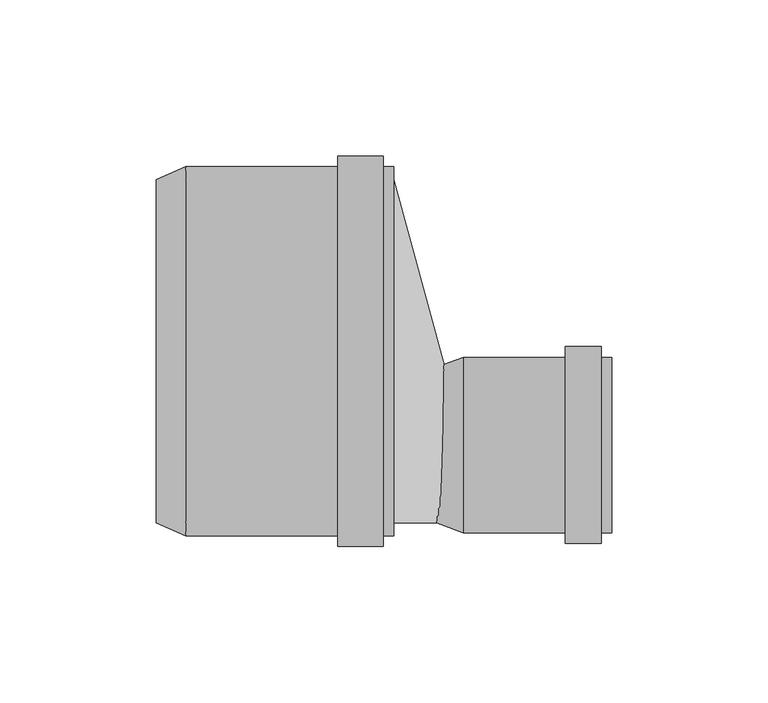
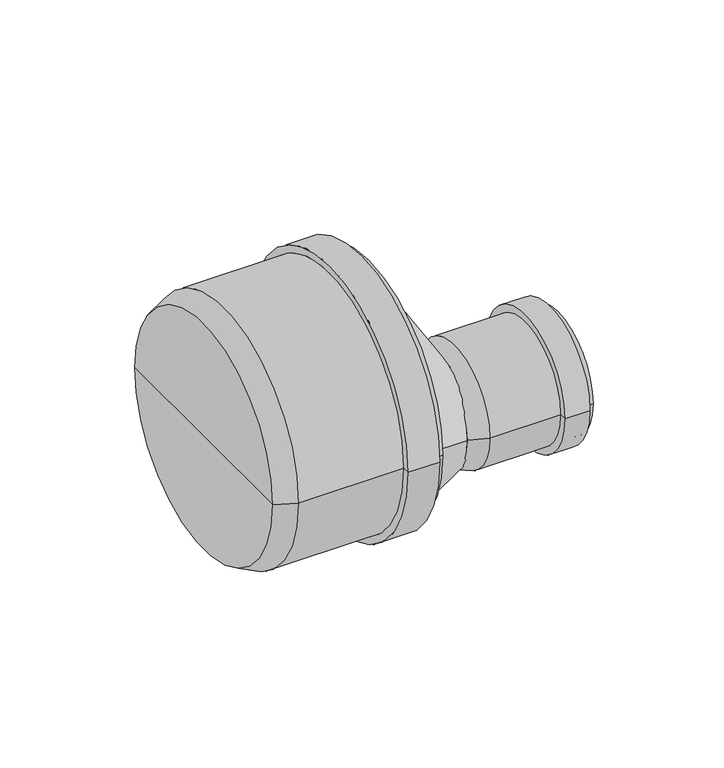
"""IFC4 building model written with IfcOpenShell, lengths in millimetres: pipe fitting geometry, pf_HTR_red-nes-kratka : pf_HTR_red-nes-kratka."""

from ifc_helpers import new_model, si_unit, frame, origin, place, context, project, spatial, polyline, circle_curve, source, transform, mapped, element, save
from ifc_brep_helpers import plane_surface, cylinder_surface, revolved_surface, spline_surface, advanced_brep


def pipe_fitting_8715ee71(model_context):
    return source(origin(), model_context, "Body", "AdvancedBrep", [
        advanced_brep(
        [(-76.0, -55.0, 0.0), (-76.0, 55.0, 0.0), (-66.5, 59.1, 0.0), (-66.5, -59.1, 0.0), (-76.0, 0.0, 0.0), (0.0, -59.1, 0.0), (0.0, 59.1, 0.0), (0.0, 0.0, 0.0), (-3.4, -59.1, 0.0), (-3.4, 59.1, 0.0), (-3.4, -62.5, 0.0), (-3.4, 62.5, 0.0), (-17.9, -62.5, 0.0), (-17.9, 62.5, 0.0), (-17.9, -59.1, 0.0), (-17.9, 59.1, 0.0)],
        [
            (0, 1, circle_curve(frame((-76.0, 0.0, 0.0), z_axis=(1.0, 0.0, 0.0), x_axis=(0.0, 1.0, 0.0)), 55.0)),
            (1, 2),
            (2, 3, circle_curve(frame((-66.5, 0.0, 0.0), z_axis=(-1.0, 0.0, 0.0), x_axis=(0.0, 1.0, 0.0)), 59.1)),
            (3, 0),
            (1, 0, circle_curve(frame((-76.0, 0.0, 0.0), z_axis=(1.0, 0.0, 0.0), x_axis=(0.0, 1.0, 0.0)), 55.0)),
            (3, 2, circle_curve(frame((-66.5, 0.0, 0.0), z_axis=(-1.0, 0.0, 0.0), x_axis=(0.0, 1.0, 0.0)), 59.1)),
            (4, 1),
            (0, 4),
            (5, 6, circle_curve(frame((0.0, 0.0, 0.0), z_axis=(1.0, 0.0, 0.0), x_axis=(0.0, 1.0, 0.0)), 59.1)),
            (6, 7),
            (7, 5),
            (6, 5, circle_curve(frame((0.0, 0.0, 0.0), z_axis=(1.0, 0.0, 0.0), x_axis=(0.0, 1.0, 0.0)), 59.1)),
            (8, 9, circle_curve(frame((-3.4, 0.0, 0.0), z_axis=(1.0, 0.0, 0.0), x_axis=(0.0, 1.0, 0.0)), 59.1)),
            (9, 6),
            (5, 8),
            (9, 8, circle_curve(frame((-3.4, 0.0, 0.0), z_axis=(1.0, 0.0, 0.0), x_axis=(0.0, 1.0, 0.0)), 59.1)),
            (10, 11, circle_curve(frame((-3.4, 0.0, 0.0), z_axis=(1.0, 0.0, 0.0), x_axis=(0.0, 1.0, 0.0)), 62.5)),
            (11, 9),
            (8, 10),
            (11, 10, circle_curve(frame((-3.4, 0.0, 0.0), z_axis=(1.0, 0.0, 0.0), x_axis=(0.0, 1.0, 0.0)), 62.5)),
            (12, 13, circle_curve(frame((-17.9, 0.0, 0.0), z_axis=(1.0, 0.0, 0.0), x_axis=(0.0, 1.0, 0.0)), 62.5)),
            (13, 11),
            (10, 12),
            (13, 12, circle_curve(frame((-17.9, 0.0, 0.0), z_axis=(1.0, 0.0, 0.0), x_axis=(0.0, 1.0, 0.0)), 62.5)),
            (14, 15, circle_curve(frame((-17.9, 0.0, 0.0), z_axis=(1.0, 0.0, 0.0), x_axis=(0.0, 1.0, 0.0)), 59.1)),
            (15, 13),
            (12, 14),
            (15, 14, circle_curve(frame((-17.9, 0.0, 0.0), z_axis=(1.0, 0.0, 0.0), x_axis=(0.0, 1.0, 0.0)), 59.1)),
            (2, 15),
            (14, 3),
        ],
        [
            revolved_surface(polyline([(-66.5, 59.1, 0.0), (-76.0, 55.0, 0.0)]), (-76.0, 0.0, 0.0), (-1.0, 0.0, 0.0)),
            plane_surface(frame((-76.0, 0.0, 0.0), z_axis=(-1.0, 0.0, 0.0), x_axis=(0.0, 1.0, 0.0))),
            plane_surface(frame((0.0, 0.0, 0.0), z_axis=(1.0, 0.0, 0.0), x_axis=(0.0, 1.0, 0.0))),
            cylinder_surface(frame((-76.0, 0.0, 0.0), z_axis=(-1.0, 0.0, 0.0), x_axis=(0.0, 1.0, 0.0)), 59.1),
            plane_surface(frame((-3.4, 0.0, 0.0), z_axis=(1.0, 0.0, 0.0), x_axis=(0.0, 1.0, 0.0))),
            cylinder_surface(frame((-76.0, 0.0, 0.0), z_axis=(-1.0, 0.0, 0.0), x_axis=(0.0, 1.0, 0.0)), 62.5),
            plane_surface(frame((-17.9, 0.0, 0.0), z_axis=(-1.0, 0.0, 0.0), x_axis=(0.0, 1.0, 0.0))),
        ],
        [
            (0, [[1, 2, 3, 4]]),
            (0, [[5, -4, 6, -2]]),
            (1, [[7, -1, 8]]),
            (1, [[-8, -5, -7]]),
            (2, [[9, 10, 11]]),
            (2, [[12, -11, -10]]),
            (3, [[13, 14, -9, 15]]),
            (3, [[16, -15, -12, -14]]),
            (4, [[17, 18, -13, 19]]),
            (4, [[20, -19, -16, -18]]),
            (5, [[21, 22, -17, 23]]),
            (5, [[24, -23, -20, -22]]),
            (6, [[25, 26, -21, 27]]),
            (6, [[28, -27, -24, -26]]),
            (3, [[-3, 29, -25, 30]]),
            (3, [[-6, -30, -28, -29]]),
        ],
    ),
        advanced_brep(
        [(13.75, -55.0, 0.0), (13.75, -5.0, 0.0), (22.25, -1.9, 0.0), (22.25, -58.1, 0.0), (13.75, -30.0, 0.0), (69.75, -58.1, 0.0), (69.75, -1.9, 0.0), (69.75, -30.0, 0.0), (66.35, -58.1, 0.0), (66.35, -1.9, 0.0), (66.35, -61.5, 0.0), (66.35, 1.5, 0.0), (54.95, -61.5, 0.0), (54.95, 1.5, 0.0), (54.95, -58.1, 0.0), (54.95, -1.9, 0.0)],
        [
            (0, 1, circle_curve(frame((13.75, -30.0, 0.0), z_axis=(1.0, 0.0, 0.0), x_axis=(0.0, 1.0, 0.0)), 25.0)),
            (1, 2),
            (2, 3, circle_curve(frame((22.25, -30.0, 0.0), z_axis=(-1.0, 0.0, 0.0), x_axis=(0.0, 1.0, 0.0)), 28.1)),
            (3, 0),
            (1, 0, circle_curve(frame((13.75, -30.0, 0.0), z_axis=(1.0, 0.0, 0.0), x_axis=(0.0, 1.0, 0.0)), 25.0)),
            (3, 2, circle_curve(frame((22.25, -30.0, 0.0), z_axis=(-1.0, 0.0, 0.0), x_axis=(0.0, 1.0, 0.0)), 28.1)),
            (4, 1),
            (0, 4),
            (5, 6, circle_curve(frame((69.75, -30.0, 0.0), z_axis=(1.0, 0.0, 0.0), x_axis=(0.0, 1.0, 0.0)), 28.1)),
            (6, 7),
            (7, 5),
            (6, 5, circle_curve(frame((69.75, -30.0, 0.0), z_axis=(1.0, 0.0, 0.0), x_axis=(0.0, 1.0, 0.0)), 28.1)),
            (8, 9, circle_curve(frame((66.35, -30.0, 0.0), z_axis=(1.0, 0.0, 0.0), x_axis=(0.0, 1.0, 0.0)), 28.1)),
            (9, 6),
            (5, 8),
            (9, 8, circle_curve(frame((66.35, -30.0, 0.0), z_axis=(1.0, 0.0, 0.0), x_axis=(0.0, 1.0, 0.0)), 28.1)),
            (10, 11, circle_curve(frame((66.35, -30.0, 0.0), z_axis=(1.0, 0.0, 0.0), x_axis=(0.0, 1.0, 0.0)), 31.5)),
            (11, 9),
            (8, 10),
            (11, 10, circle_curve(frame((66.35, -30.0, 0.0), z_axis=(1.0, 0.0, 0.0), x_axis=(0.0, 1.0, 0.0)), 31.5)),
            (12, 13, circle_curve(frame((54.95, -30.0, 0.0), z_axis=(1.0, 0.0, 0.0), x_axis=(0.0, 1.0, 0.0)), 31.5)),
            (13, 11),
            (10, 12),
            (13, 12, circle_curve(frame((54.95, -30.0, 0.0), z_axis=(1.0, 0.0, 0.0), x_axis=(0.0, 1.0, 0.0)), 31.5)),
            (14, 15, circle_curve(frame((54.95, -30.0, 0.0), z_axis=(1.0, 0.0, 0.0), x_axis=(0.0, 1.0, 0.0)), 28.1)),
            (15, 13),
            (12, 14),
            (15, 14, circle_curve(frame((54.95, -30.0, 0.0), z_axis=(1.0, 0.0, 0.0), x_axis=(0.0, 1.0, 0.0)), 28.1)),
            (2, 15),
            (14, 3),
        ],
        [
            revolved_surface(polyline([(22.25, -1.9, 0.0), (13.75, -5.0, 0.0)]), (13.75, -30.0, 0.0), (-1.0, 0.0, 0.0)),
            plane_surface(frame((13.75, -30.0, 0.0), z_axis=(-1.0, 0.0, 0.0), x_axis=(0.0, 1.0, 0.0))),
            plane_surface(frame((69.75, -30.0, 0.0), z_axis=(1.0, 0.0, 0.0), x_axis=(0.0, 1.0, 0.0))),
            cylinder_surface(frame((13.75, -30.0, 0.0), z_axis=(-1.0, 0.0, 0.0), x_axis=(0.0, 1.0, 0.0)), 28.1),
            plane_surface(frame((66.35, -30.0, 0.0), z_axis=(1.0, 0.0, 0.0), x_axis=(0.0, 1.0, 0.0))),
            cylinder_surface(frame((13.75, -30.0, 0.0), z_axis=(-1.0, 0.0, 0.0), x_axis=(0.0, 1.0, 0.0)), 31.5),
            plane_surface(frame((54.95, -30.0, 0.0), z_axis=(-1.0, 0.0, 0.0), x_axis=(0.0, 1.0, 0.0))),
        ],
        [
            (0, [[1, 2, 3, 4]]),
            (0, [[5, -4, 6, -2]]),
            (1, [[7, -1, 8]]),
            (1, [[-8, -5, -7]]),
            (2, [[9, 10, 11]]),
            (2, [[12, -11, -10]]),
            (3, [[13, 14, -9, 15]]),
            (3, [[16, -15, -12, -14]]),
            (4, [[17, 18, -13, 19]]),
            (4, [[20, -19, -16, -18]]),
            (5, [[21, 22, -17, 23]]),
            (5, [[24, -23, -20, -22]]),
            (6, [[25, 26, -21, 27]]),
            (6, [[28, -27, -24, -26]]),
            (3, [[-3, 29, -25, 30]]),
            (3, [[-6, -30, -28, -29]]),
        ],
    ),
        advanced_brep(
        [(16.25, -55.0, 0.0), (16.25, -5.0, 0.0), (0.0, -55.0, 0.0), (0.0, 55.0, 0.0)],
        [
            (0, 1, circle_curve(frame((16.25, -30.0, 0.0), z_axis=(1.0, 0.0, 0.0), x_axis=(0.0, 1.0, 0.0)), 25.0)),
            (1, 0, circle_curve(frame((16.25, -30.0, 0.0), z_axis=(1.0, 0.0, 0.0), x_axis=(0.0, 1.0, 0.0)), 25.0)),
            (2, 3, circle_curve(frame((0.0, 0.0, 0.0), z_axis=(-1.0, 0.0, 0.0), x_axis=(0.0, 1.0, 0.0)), 55.0)),
            (3, 2, circle_curve(frame((0.0, 0.0, 0.0), z_axis=(-1.0, 0.0, 0.0), x_axis=(0.0, 1.0, 0.0)), 55.0)),
            (3, 1),
            (0, 2),
        ],
        [
            plane_surface(frame((16.25, -30.0, 0.0), z_axis=(1.0, 0.0, 0.0), x_axis=(0.0, 0.0, -1.0))),
            plane_surface(frame((0.0, 0.0, 0.0), z_axis=(-1.0, 0.0, 0.0), x_axis=(0.0, 0.0, -1.0))),
            spline_surface(2, 1, [[(0.0, -55.0, 0.0), (16.25, -55.0, 0.0)], [(0.0, -55.0, -55.0), (16.25, -55.0, -25.0)], [(0.0, 0.0, -55.0), (16.25, -30.0, -25.0)], [(0.0, 55.0, -55.0), (16.25, -5.0, -25.0)], [(0.0, 55.0, 0.0), (16.25, -5.0, 0.0)]], [3, 2, 3], [2, 2], [0.0, 1.0, 2.0], [0.0, 1.0], weights=[[1.0, 1.0], [0.7071067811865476, 0.7071067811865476], [1.0, 1.0], [0.7071067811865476, 0.7071067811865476], [1.0, 1.0]]),
            spline_surface(2, 1, [[(0.0, 55.0, 0.0), (16.25, -5.0, 0.0)], [(0.0, 55.0, 55.0), (16.25, -5.0, 25.0)], [(0.0, 0.0, 55.0), (16.25, -30.0, 25.0)], [(0.0, -55.0, 55.0), (16.25, -55.0, 25.0)], [(0.0, -55.0, 0.0), (16.25, -55.0, 0.0)]], [3, 2, 3], [2, 2], [0.0, 1.0, 2.0], [0.0, 1.0], weights=[[1.0, 1.0], [0.7071067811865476, 0.7071067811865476], [1.0, 1.0], [0.7071067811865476, 0.7071067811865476], [1.0, 1.0]]),
        ],
        [
            (0, [[1, 2]]),
            (1, [[3, 4]]),
            (2, [[-4, 5, -1, 6]]),
            (3, [[-3, -6, -2, -5]]),
        ],
    ),
    ])


if __name__ == "__main__":
    model = new_model("IFC4")
    model_context = context("Model", 3, world=origin())
    ifc_project = project(units=[si_unit("LENGTHUNIT", "METRE", prefix="MILLI")], contexts=[model_context])
    site = spatial("IfcSite", under=ifc_project)
    building = spatial("IfcBuilding", under=site)
    placement = place(None, origin())
    pipe_fitting_shape = pipe_fitting_8715ee71(model_context)
    element("IfcPipeFitting", 1, ObjectType="pf_HTR_red-nes-kratka : pf_HTR_red-nes-kratka", at=placement, inside=building, context=model_context, shape_type="MappedRepresentation", body=[
        mapped(pipe_fitting_shape, transform((0.0, 0.0, 0.0), x_axis=(1.0, 0.0, 0.0), y_axis=(0.0, 1.0, 0.0), z_axis=(0.0, 0.0, 1.0))),
    ])
    save(model, "model.ifc")
